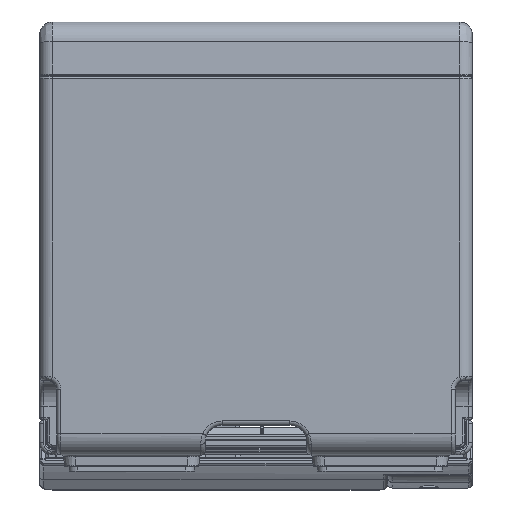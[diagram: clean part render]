
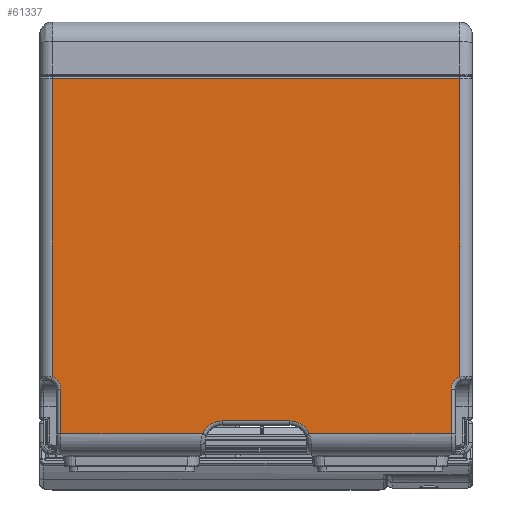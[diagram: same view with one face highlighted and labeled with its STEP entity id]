
A CAD part, front view. The second image highlights one B-rep face of the part: STEP entity #61337.
In plain terms, the highlighted planar face has unit normal (0, -1, 0).
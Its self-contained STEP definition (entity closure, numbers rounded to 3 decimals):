
#56560=CARTESIAN_POINT('',(-8.417,-82.5,-73.5));
#56743=DIRECTION('',(1.,0.,0.));
#56744=VECTOR('',#56743,96.);
#56745=CARTESIAN_POINT('',(-69.,-82.5,10.1));
#56746=LINE('',#56745,#56744);
#56747=CARTESIAN_POINT('',(28.,-82.5,-63.));
#56748=DIRECTION('',(0.,1.,0.));
#56749=DIRECTION('',(-1.,0.,0.));
#56750=AXIS2_PLACEMENT_3D('',#56747,#56748,#56749);
#56752=DIRECTION('',(0.,0.,1.));
#56753=VECTOR('',#56752,10.5);
#56754=CARTESIAN_POINT('',(25.,-82.5,-73.5));
#56755=LINE('',#56754,#56753);
#56756=DIRECTION('',(-1.,0.,0.));
#56757=VECTOR('',#56756,33.417);
#56758=CARTESIAN_POINT('',(25.,-82.5,-73.5));
#56759=LINE('',#56758,#56757);
#56760=CARTESIAN_POINT('',(-13.,-82.5,-75.5));
#56761=DIRECTION('',(0.,1.,0.));
#56762=DIRECTION('',(0.,0.,1.));
#56763=AXIS2_PLACEMENT_3D('',#56760,#56761,#56762);
#56765=DIRECTION('',(1.,0.,0.));
#56766=VECTOR('',#56765,16.);
#56767=CARTESIAN_POINT('',(-29.,-82.5,-70.5));
#56768=LINE('',#56767,#56766);
#56769=CARTESIAN_POINT('',(-29.,-82.5,-75.5));
#56770=DIRECTION('',(0.,1.,0.));
#56771=DIRECTION('',(-0.917,0.,0.4));
#56772=AXIS2_PLACEMENT_3D('',#56769,#56770,#56771);
#56774=DIRECTION('',(-1.,0.,0.));
#56775=VECTOR('',#56774,33.417);
#56776=CARTESIAN_POINT('',(-33.583,-82.5,-73.5));
#56777=LINE('',#56776,#56775);
#56778=DIRECTION('',(0.,0.,-1.));
#56779=VECTOR('',#56778,10.5);
#56780=CARTESIAN_POINT('',(-67.,-82.5,-63.));
#56781=LINE('',#56780,#56779);
#56782=CARTESIAN_POINT('',(-70.,-82.5,-63.));
#56783=DIRECTION('',(0.,1.,0.));
#56784=DIRECTION('',(0.333,0.,0.943));
#56785=AXIS2_PLACEMENT_3D('',#56782,#56783,#56784);
#56787=DIRECTION('',(0.,0.,1.));
#56788=VECTOR('',#56787,70.272);
#56789=CARTESIAN_POINT('',(-69.,-82.5,-60.172));
#56790=LINE('',#56789,#56788);
#56839=CARTESIAN_POINT('',(27.,-82.5,-60.172));
#56852=DIRECTION('',(0.,0.,1.));
#56853=VECTOR('',#56852,70.272);
#56854=CARTESIAN_POINT('',(27.,-82.5,-60.172));
#56855=LINE('',#56854,#56853);
#58786=VERTEX_POINT('',#56839);
#58788=CARTESIAN_POINT('',(25.,-82.5,-63.));
#58789=VERTEX_POINT('',#58788);
#58792=CARTESIAN_POINT('',(25.,-82.5,-73.5));
#58793=VERTEX_POINT('',#58792);
#58800=CARTESIAN_POINT('',(-67.,-82.5,-73.5));
#58802=VERTEX_POINT('',#58800);
#58808=CARTESIAN_POINT('',(-67.,-82.5,-63.));
#58809=VERTEX_POINT('',#58808);
#58812=CARTESIAN_POINT('',(-69.,-82.5,-60.172));
#58813=VERTEX_POINT('',#58812);
#58970=VERTEX_POINT('',#56560);
#58972=CARTESIAN_POINT('',(-13.,-82.5,-70.5));
#58973=VERTEX_POINT('',#58972);
#58976=CARTESIAN_POINT('',(-29.,-82.5,-70.5));
#58977=VERTEX_POINT('',#58976);
#58980=CARTESIAN_POINT('',(-33.583,-82.5,-73.5));
#58981=VERTEX_POINT('',#58980);
#59068=CARTESIAN_POINT('',(-69.,-82.5,10.1));
#59069=VERTEX_POINT('',#59068);
#59072=CARTESIAN_POINT('',(27.,-82.5,10.1));
#59073=VERTEX_POINT('',#59072);
#61309=CARTESIAN_POINT('',(30.,-82.5,-78.5));
#61310=DIRECTION('',(0.,-1.,0.));
#61311=DIRECTION('',(0.,0.,1.));
#61312=AXIS2_PLACEMENT_3D('',#61309,#61310,#61311);
#61313=PLANE('',#61312);
#61315=ORIENTED_EDGE('',*,*,#61314,.T.);
#61317=ORIENTED_EDGE('',*,*,#61316,.F.);
#61319=ORIENTED_EDGE('',*,*,#61318,.F.);
#61321=ORIENTED_EDGE('',*,*,#61320,.F.);
#61322=ORIENTED_EDGE('',*,*,#61117,.T.);
#61324=ORIENTED_EDGE('',*,*,#61323,.F.);
#61326=ORIENTED_EDGE('',*,*,#61325,.F.);
#61327=ORIENTED_EDGE('',*,*,#61300,.F.);
#61328=ORIENTED_EDGE('',*,*,#61136,.T.);
#61330=ORIENTED_EDGE('',*,*,#61329,.F.);
#61332=ORIENTED_EDGE('',*,*,#61331,.F.);
#61334=ORIENTED_EDGE('',*,*,#61333,.T.);
#61335=EDGE_LOOP('',(#61315,#61317,#61319,#61321,#61322,#61324,#61326,#61327,
#61328,#61330,#61332,#61334));
#61336=FACE_OUTER_BOUND('',#61335,.F.);
#56751=CIRCLE('',#56750,3.);
#56764=CIRCLE('',#56763,5.);
#56773=CIRCLE('',#56772,5.);
#56786=CIRCLE('',#56785,3.);
#61117=EDGE_CURVE('',#58793,#58970,#56759,.T.);
#61136=EDGE_CURVE('',#58981,#58802,#56777,.T.);
#61300=EDGE_CURVE('',#58981,#58977,#56773,.T.);
#61314=EDGE_CURVE('',#59069,#59073,#56746,.T.);
#61316=EDGE_CURVE('',#58786,#59073,#56855,.T.);
#61318=EDGE_CURVE('',#58789,#58786,#56751,.T.);
#61320=EDGE_CURVE('',#58793,#58789,#56755,.T.);
#61323=EDGE_CURVE('',#58973,#58970,#56764,.T.);
#61325=EDGE_CURVE('',#58977,#58973,#56768,.T.);
#61329=EDGE_CURVE('',#58809,#58802,#56781,.T.);
#61331=EDGE_CURVE('',#58813,#58809,#56786,.T.);
#61333=EDGE_CURVE('',#58813,#59069,#56790,.T.);
#61337=ADVANCED_FACE('',(#61336),#61313,.T.);
